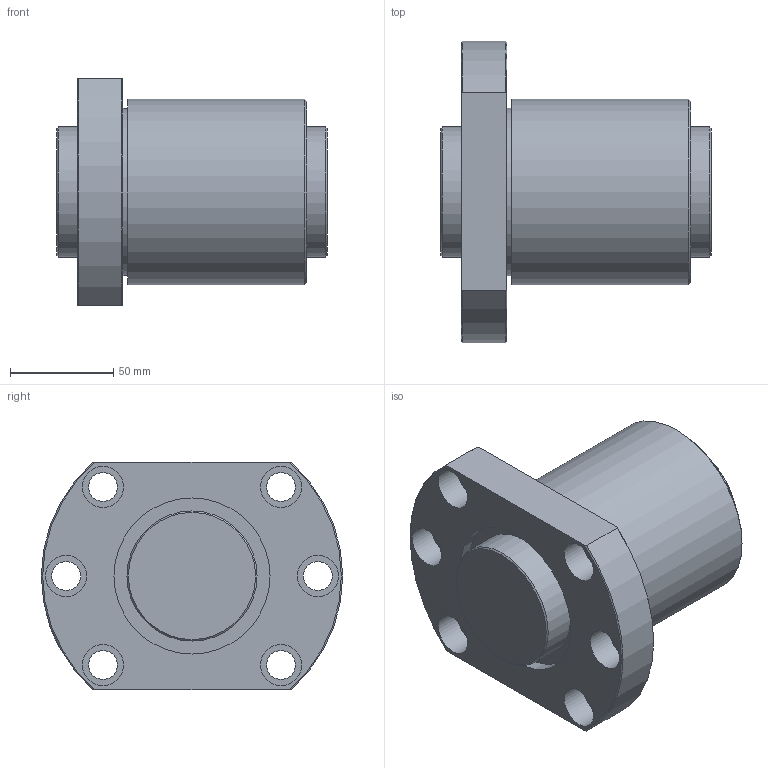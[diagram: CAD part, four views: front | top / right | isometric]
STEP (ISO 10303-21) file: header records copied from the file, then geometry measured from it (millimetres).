
FILE_DESCRIPTION(/* description */ ('STEP AP203'),/* implementation_level */ '2;1');
FILE_NAME(/* name */ 'DK6312-4RRG1+131LC0_000',/* time_stamp */ '2025-01-13T09:32:22+01:00',/* author */ ('License CC BY-ND 4.0'),/* organization */ ('CADENAS'),/* preprocessor_version */ 'ST-DEVELOPER v19.3',/* originating_system */ 'PARTsolutions',/* authorisation */ ' ');
FILE_SCHEMA (('CONFIG_CONTROL_DESIGN'));
Length unit declared in the file: millimetre
Products named in the file (3): DK6312-4RRG1+131LC0_000; DK 6312-4RR013100 Shaft; DK 6312-4RR0Nut
Assembly tree (2 placements, depth 2):
  DK6312-4RRG1+131LC0_000
    DK 6312-4RR013100 Shaft
    DK 6312-4RR0Nut
Bounding box: 131 x 146 x 110 mm (x, y, z)
Volume: 890272.2 mm3; surface area: 120279.3 mm2
Topology: 2 solids, 2 shells, 46 faces, 94 edges, 62 vertices
Faces by surface type: cylinder 21, plane 16, cone 9
Full cylindrical faces by diameter (mm): 8.566 x1, 14 x6, 20 x6, 63 x2, 75.6 x2, 81 x1, 90 x1
Entity records: 1222 total; most frequent: CARTESIAN_POINT 226, DIRECTION 204, ORIENTED_EDGE 134, AXIS2_PLACEMENT_3D 98, EDGE_LOOP 96, FACE_BOUND 96, EDGE_CURVE 67, VERTEX_POINT 59
